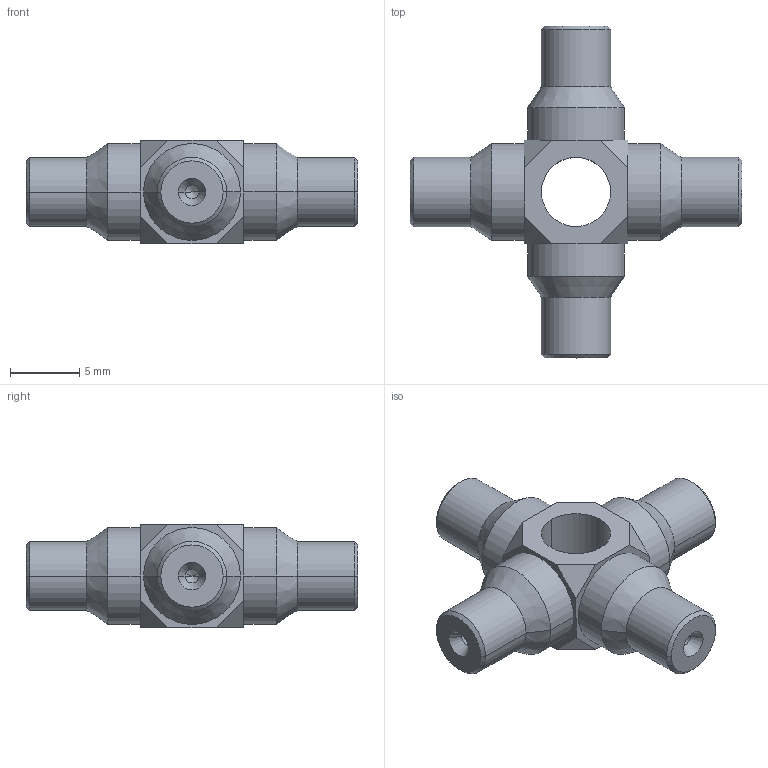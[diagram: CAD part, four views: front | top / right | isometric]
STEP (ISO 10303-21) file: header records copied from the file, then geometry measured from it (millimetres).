
FILE_DESCRIPTION (( 'STEP AP214' ), '1' );
FILE_NAME ('IRB360_X-1130-WDS-4D_rev03_UC_CAD.STEP', '2023-12-04T10:22:48', ( '' ), ( '' ), 'SwSTEP 2.0', 'SolidWorks 2022', '' );
FILE_SCHEMA (( 'AUTOMOTIVE_DESIGN' ));
Length unit declared in the file: millimetre
Products named in the file (1): IRB360_X-1130-WDS-4D_rev03_UC_CAD
Bounding box: 24 x 24 x 7.5 mm (x, y, z)
Volume: 1133.1 mm3; surface area: 943.9 mm2
Topology: 1 solids, 1 shells, 76 faces, 170 edges, 96 vertices
Faces by surface type: cone 32, cylinder 26, plane 18
Entity records: 2064 total; most frequent: DIRECTION 384, CARTESIAN_POINT 335, ORIENTED_EDGE 324, EDGE_CURVE 162, AXIS2_PLACEMENT_3D 145, VERTEX_POINT 96, VECTOR 94, LINE 94
